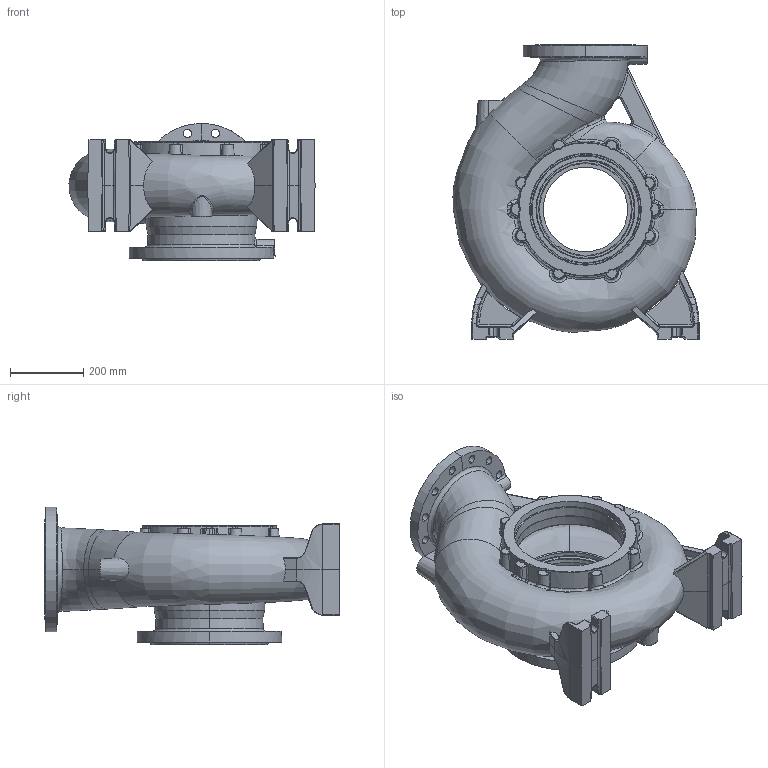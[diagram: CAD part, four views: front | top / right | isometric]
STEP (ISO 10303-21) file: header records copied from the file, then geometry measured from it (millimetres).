
FILE_DESCRIPTION (( 'STEP AP203' ), '1' );
FILE_NAME ('NM 200-280.STEP', '2016-11-10T11:01:38', ( '' ), ( '' ), 'SwSTEP 2.0', 'SolidWorks 2015', '' );
FILE_SCHEMA (( 'CONFIG_CONTROL_DESIGN' ));
Length unit declared in the file: millimetre
Products named in the file (1): NM 200-280
Bounding box: 672.18 x 805 x 375 mm (x, y, z)
Volume: 24830742.6 mm3; surface area: 2641954.5 mm2
Topology: 3 solids, 3 shells, 818 faces, 2205 edges, 1370 vertices
Faces by surface type: bspline 263, cylinder 188, plane 132, cone 131, torus 91, sphere 13
Entity records: 181222 total; most frequent: CARTESIAN_POINT 163670, ORIENTED_EDGE 4386, DIRECTION 2745, EDGE_CURVE 2193, VERTEX_POINT 1370, AXIS2_PLACEMENT_3D 1125, B_SPLINE_CURVE_WITH_KNOTS 932, EDGE_LOOP 861
